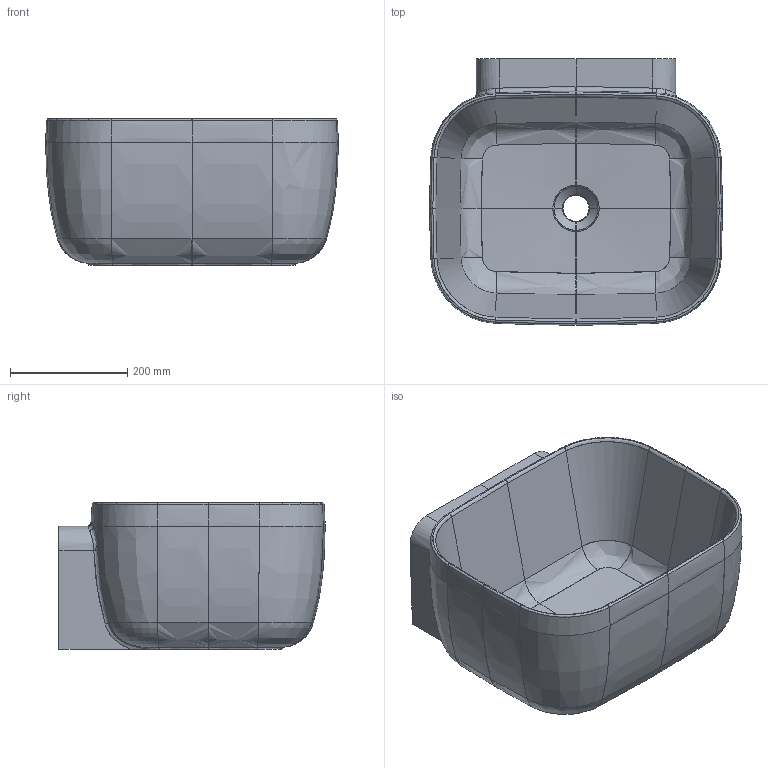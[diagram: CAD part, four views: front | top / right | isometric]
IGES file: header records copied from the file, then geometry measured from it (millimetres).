
Start section: START RECORD GO HERE.
Global section: file name: 7501_3D_IGS.igs; native system: DASSAULT SYSTEMES CATIA V5 R19 - www.3ds.com; preprocessor: CATIA Version 5 Release 19 SP 5 ; author: Luca; organization: DESKTOP-V7SON24; date: 20220503.084529; units: millimetre
Bounding box: 500 x 455 x 249.96 mm (x, y, z)
Surface area: 1099451.5 mm2 (no closed solid volume)
Topology: 0 solids, 0 shells, 229 faces, 1028 edges, 1028 vertices
Faces by surface type: bspline 166, revolution 40, plane 17, extrusion 6
